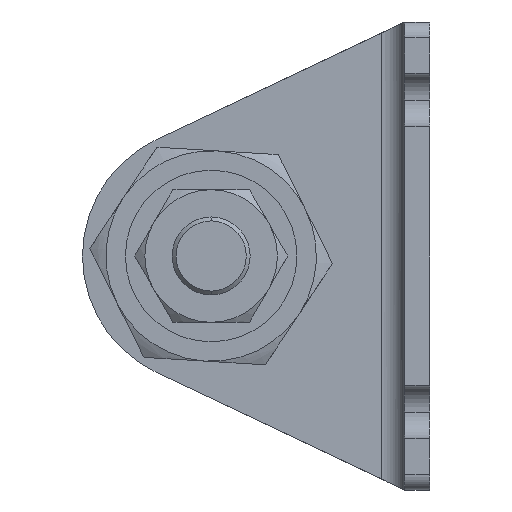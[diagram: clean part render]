
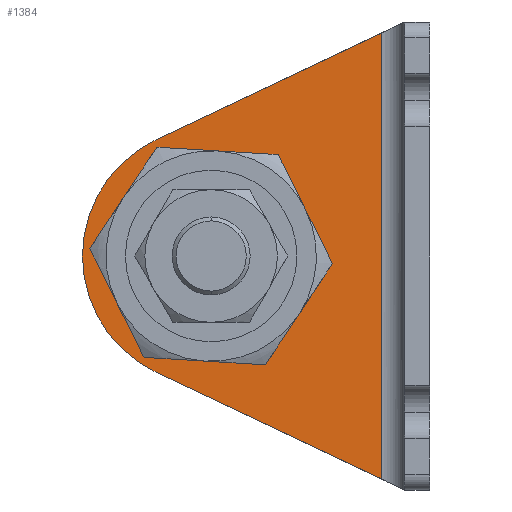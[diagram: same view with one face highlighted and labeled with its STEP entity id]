
A CAD part, left-side view. The second image highlights one B-rep face of the part: STEP entity #1384.
In plain terms, the highlighted planar face has unit normal (-1, 0, 0) as drawn and (1, 0, 0) by its records, which use the part's own axes.
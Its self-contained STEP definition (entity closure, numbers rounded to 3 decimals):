
#17 = VECTOR ( 'NONE', #1687, 1000. ) ;
#77 = DIRECTION ( 'NONE',  ( 0., 1., 0. ) ) ;
#203 = EDGE_CURVE ( 'NONE', #302, #342, #2231, .T. ) ;
#302 = VERTEX_POINT ( 'NONE', #2122 ) ;
#342 = VERTEX_POINT ( 'NONE', #3403 ) ;
#388 = CIRCLE ( 'NONE', #2864, 11.5 ) ;
#400 = EDGE_LOOP ( 'NONE', ( #4087, #1153, #3183, #798, #3005 ) ) ;
#409 = EDGE_CURVE ( 'NONE', #839, #500, #388, .T. ) ;
#500 = VERTEX_POINT ( 'NONE', #980 ) ;
#664 = EDGE_CURVE ( 'NONE', #500, #839, #2227, .T. ) ;
#709 = CARTESIAN_POINT ( 'NONE',  ( 3.2, 26.408, -10.99 ) ) ;
#798 = ORIENTED_EDGE ( 'NONE', *, *, #1828, .T. ) ;
#812 = EDGE_CURVE ( 'NONE', #2835, #342, #2522, .T. ) ;
#839 = VERTEX_POINT ( 'NONE', #3021 ) ;
#914 = DIRECTION ( 'NONE',  ( 0., 1., 0. ) ) ;
#979 = CIRCLE ( 'NONE', #2512, 16.5 ) ;
#980 = CARTESIAN_POINT ( 'NONE',  ( 3.2, 16.5, -30. ) ) ;
#1049 = AXIS2_PLACEMENT_3D ( 'NONE', #3733, #2817, #1495 ) ;
#1150 = EDGE_LOOP ( 'NONE', ( #2531, #3272 ) ) ;
#1153 = ORIENTED_EDGE ( 'NONE', *, *, #2094, .T. ) ;
#1206 = DIRECTION ( 'NONE',  ( 0., 1., 0. ) ) ;
#1265 = AXIS2_PLACEMENT_3D ( 'NONE', #3475, #3119, #1206 ) ;
#1286 = FACE_OUTER_BOUND ( 'NONE', #400, .T. ) ;
#1384 = ADVANCED_FACE ( 'NONE', ( #1286, #3834 ), #2477, .T. ) ;
#1495 = DIRECTION ( 'NONE',  ( 0., 1., 0. ) ) ;
#1547 = CARTESIAN_POINT ( 'NONE',  ( 3.2, 3.2, -60. ) ) ;
#1575 = VECTOR ( 'NONE', #2378, 1000. ) ;
#1674 = VERTEX_POINT ( 'NONE', #2355 ) ;
#1687 = DIRECTION ( 'NONE',  ( 0., 0.904, 0.428 ) ) ;
#1696 = DIRECTION ( 'NONE',  ( 0., 0., -1. ) ) ;
#1699 = LINE ( 'NONE', #2962, #17 ) ;
#1782 = CARTESIAN_POINT ( 'NONE',  ( 3.2, 6.2, -1.421 ) ) ;
#1816 = AXIS2_PLACEMENT_3D ( 'NONE', #1547, #2810, #3771 ) ;
#1828 = EDGE_CURVE ( 'NONE', #1965, #302, #979, .T. ) ;
#1867 = CARTESIAN_POINT ( 'NONE',  ( 3.2, 28., -30. ) ) ;
#1965 = VERTEX_POINT ( 'NONE', #2520 ) ;
#2094 = EDGE_CURVE ( 'NONE', #2835, #1674, #2572, .T. ) ;
#2122 = CARTESIAN_POINT ( 'NONE',  ( 3.2, 44.5, -30. ) ) ;
#2227 = CIRCLE ( 'NONE', #1265, 11.5 ) ;
#2231 = CIRCLE ( 'NONE', #1049, 16.5 ) ;
#2355 = CARTESIAN_POINT ( 'NONE',  ( 3.2, 6.2, -58.579 ) ) ;
#2375 = VECTOR ( 'NONE', #1696, 1000. ) ;
#2378 = DIRECTION ( 'NONE',  ( 0., 0.904, -0.428 ) ) ;
#2477 = PLANE ( 'NONE',  #1816 ) ;
#2512 = AXIS2_PLACEMENT_3D ( 'NONE', #1867, #4064, #914 ) ;
#2520 = CARTESIAN_POINT ( 'NONE',  ( 3.2, 35.062, -44.913 ) ) ;
#2522 = LINE ( 'NONE', #709, #1575 ) ;
#2531 = ORIENTED_EDGE ( 'NONE', *, *, #409, .F. ) ;
#2572 = LINE ( 'NONE', #3540, #2375 ) ;
#2596 = CARTESIAN_POINT ( 'NONE',  ( 3.2, 28., -30. ) ) ;
#2668 = EDGE_CURVE ( 'NONE', #1674, #1965, #1699, .T. ) ;
#2810 = DIRECTION ( 'NONE',  ( 1., 0., 0. ) ) ;
#2817 = DIRECTION ( 'NONE',  ( 1., 0., 0. ) ) ;
#2835 = VERTEX_POINT ( 'NONE', #1782 ) ;
#2864 = AXIS2_PLACEMENT_3D ( 'NONE', #2596, #3531, #77 ) ;
#2962 = CARTESIAN_POINT ( 'NONE',  ( 3.2, 3.2, -60. ) ) ;
#3005 = ORIENTED_EDGE ( 'NONE', *, *, #203, .T. ) ;
#3021 = CARTESIAN_POINT ( 'NONE',  ( 3.2, 39.5, -30. ) ) ;
#3119 = DIRECTION ( 'NONE',  ( 1., 0., 0. ) ) ;
#3183 = ORIENTED_EDGE ( 'NONE', *, *, #2668, .T. ) ;
#3272 = ORIENTED_EDGE ( 'NONE', *, *, #664, .F. ) ;
#3403 = CARTESIAN_POINT ( 'NONE',  ( 3.2, 35.062, -15.087 ) ) ;
#3475 = CARTESIAN_POINT ( 'NONE',  ( 3.2, 28., -30. ) ) ;
#3531 = DIRECTION ( 'NONE',  ( 1., 0., 0. ) ) ;
#3540 = CARTESIAN_POINT ( 'NONE',  ( 3.2, 6.2, -60. ) ) ;
#3733 = CARTESIAN_POINT ( 'NONE',  ( 3.2, 28., -30. ) ) ;
#3771 = DIRECTION ( 'NONE',  ( 0., 1., 0. ) ) ;
#3834 = FACE_BOUND ( 'NONE', #1150, .T. ) ;
#4064 = DIRECTION ( 'NONE',  ( 1., 0., 0. ) ) ;
#4087 = ORIENTED_EDGE ( 'NONE', *, *, #812, .F. ) ;
